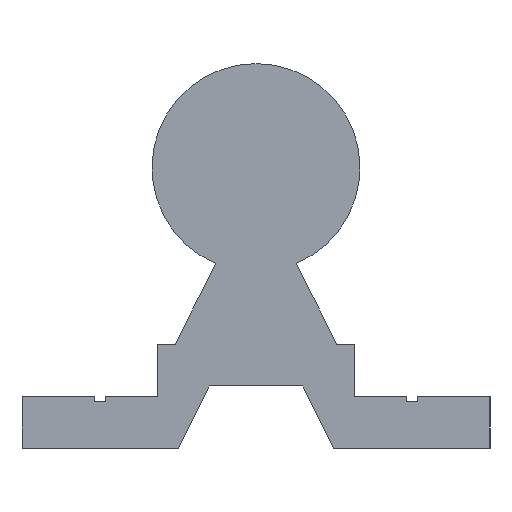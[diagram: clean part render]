
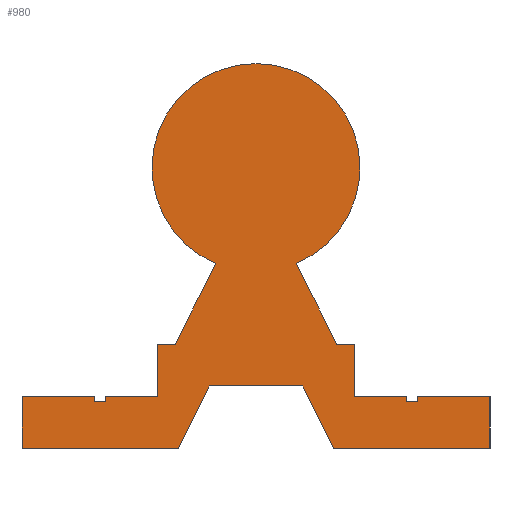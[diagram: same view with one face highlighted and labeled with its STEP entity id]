
A CAD part, left-side view. The second image highlights one B-rep face of the part: STEP entity #980.
In plain terms, the highlighted planar face has unit normal (-1, 0, 0).
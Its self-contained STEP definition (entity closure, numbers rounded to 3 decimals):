
#26=LINE('',#1379,#116);
#36=LINE('',#1420,#126);
#40=LINE('',#1445,#130);
#50=LINE('',#1486,#140);
#53=LINE('',#1499,#143);
#55=LINE('',#1518,#145);
#58=LINE('',#1529,#148);
#60=LINE('',#1548,#150);
#74=LINE('',#1595,#164);
#78=LINE('',#1603,#168);
#81=LINE('',#1609,#171);
#84=LINE('',#1615,#174);
#87=LINE('',#1620,#177);
#89=LINE('',#1623,#179);
#90=LINE('',#1626,#180);
#93=LINE('',#1632,#183);
#96=LINE('',#1638,#186);
#99=LINE('',#1645,#189);
#103=LINE('',#1653,#193);
#106=LINE('',#1658,#196);
#108=LINE('',#1661,#198);
#109=LINE('',#1664,#199);
#112=LINE('',#1669,#202);
#116=VECTOR('',#1103,10.);
#126=VECTOR('',#1125,10.);
#130=VECTOR('',#1141,10.);
#140=VECTOR('',#1163,10.);
#143=VECTOR('',#1174,10.);
#145=VECTOR('',#1194,10.);
#148=VECTOR('',#1203,10.);
#150=VECTOR('',#1223,10.);
#164=VECTOR('',#1279,10.);
#168=VECTOR('',#1285,10.);
#171=VECTOR('',#1290,10.);
#174=VECTOR('',#1295,10.);
#177=VECTOR('',#1300,10.);
#179=VECTOR('',#1304,10.);
#180=VECTOR('',#1307,10.);
#183=VECTOR('',#1312,10.);
#186=VECTOR('',#1317,10.);
#189=VECTOR('',#1322,10.);
#193=VECTOR('',#1328,10.);
#196=VECTOR('',#1333,10.);
#198=VECTOR('',#1337,10.);
#199=VECTOR('',#1340,10.);
#202=VECTOR('',#1345,10.);
#240=PLANE('',#1088);
#290=FACE_OUTER_BOUND('',#344,.T.);
#344=EDGE_LOOP('',(#899,#900,#901,#902,#903,#904,#905,#906,#907,#908,#909,
#910,#911,#912,#913,#914,#915,#916,#917,#918,#919,#920,#921,#922));
#381=CIRCLE('',#1085,10.);
#405=VERTEX_POINT('',#1376);
#406=VERTEX_POINT('',#1378);
#418=VERTEX_POINT('',#1417);
#419=VERTEX_POINT('',#1419);
#427=VERTEX_POINT('',#1442);
#428=VERTEX_POINT('',#1444);
#440=VERTEX_POINT('',#1483);
#441=VERTEX_POINT('',#1485);
#444=VERTEX_POINT('',#1497);
#449=VERTEX_POINT('',#1517);
#451=VERTEX_POINT('',#1527);
#456=VERTEX_POINT('',#1547);
#467=VERTEX_POINT('',#1593);
#468=VERTEX_POINT('',#1594);
#471=VERTEX_POINT('',#1602);
#473=VERTEX_POINT('',#1608);
#475=VERTEX_POINT('',#1614);
#477=VERTEX_POINT('',#1625);
#479=VERTEX_POINT('',#1631);
#481=VERTEX_POINT('',#1637);
#483=VERTEX_POINT('',#1643);
#484=VERTEX_POINT('',#1644);
#487=VERTEX_POINT('',#1652);
#489=VERTEX_POINT('',#1663);
#498=EDGE_CURVE('',#405,#406,#26,.T.);
#514=EDGE_CURVE('',#418,#419,#36,.T.);
#524=EDGE_CURVE('',#427,#428,#40,.T.);
#540=EDGE_CURVE('',#440,#441,#50,.T.);
#546=EDGE_CURVE('',#444,#405,#53,.T.);
#555=EDGE_CURVE('',#419,#449,#55,.T.);
#560=EDGE_CURVE('',#451,#427,#58,.T.);
#569=EDGE_CURVE('',#441,#456,#60,.T.);
#593=EDGE_CURVE('',#467,#468,#74,.T.);
#597=EDGE_CURVE('',#471,#467,#78,.T.);
#600=EDGE_CURVE('',#473,#471,#81,.T.);
#603=EDGE_CURVE('',#475,#473,#84,.T.);
#606=EDGE_CURVE('',#428,#475,#87,.T.);
#608=EDGE_CURVE('',#456,#451,#89,.T.);
#609=EDGE_CURVE('',#477,#440,#90,.T.);
#612=EDGE_CURVE('',#479,#477,#93,.T.);
#615=EDGE_CURVE('',#481,#479,#96,.T.);
#618=EDGE_CURVE('',#483,#484,#99,.T.);
#622=EDGE_CURVE('',#487,#483,#103,.T.);
#625=EDGE_CURVE('',#406,#487,#106,.T.);
#627=EDGE_CURVE('',#449,#444,#108,.T.);
#628=EDGE_CURVE('',#489,#418,#109,.T.);
#631=EDGE_CURVE('',#468,#489,#112,.T.);
#633=EDGE_CURVE('',#484,#481,#381,.T.);
#899=ORIENTED_EDGE('',*,*,#633,.F.);
#900=ORIENTED_EDGE('',*,*,#618,.F.);
#901=ORIENTED_EDGE('',*,*,#622,.F.);
#902=ORIENTED_EDGE('',*,*,#625,.F.);
#903=ORIENTED_EDGE('',*,*,#498,.F.);
#904=ORIENTED_EDGE('',*,*,#546,.F.);
#905=ORIENTED_EDGE('',*,*,#627,.F.);
#906=ORIENTED_EDGE('',*,*,#555,.F.);
#907=ORIENTED_EDGE('',*,*,#514,.F.);
#908=ORIENTED_EDGE('',*,*,#628,.F.);
#909=ORIENTED_EDGE('',*,*,#631,.F.);
#910=ORIENTED_EDGE('',*,*,#593,.F.);
#911=ORIENTED_EDGE('',*,*,#597,.F.);
#912=ORIENTED_EDGE('',*,*,#600,.F.);
#913=ORIENTED_EDGE('',*,*,#603,.F.);
#914=ORIENTED_EDGE('',*,*,#606,.F.);
#915=ORIENTED_EDGE('',*,*,#524,.F.);
#916=ORIENTED_EDGE('',*,*,#560,.F.);
#917=ORIENTED_EDGE('',*,*,#608,.F.);
#918=ORIENTED_EDGE('',*,*,#569,.F.);
#919=ORIENTED_EDGE('',*,*,#540,.F.);
#920=ORIENTED_EDGE('',*,*,#609,.F.);
#921=ORIENTED_EDGE('',*,*,#612,.F.);
#922=ORIENTED_EDGE('',*,*,#615,.F.);
#980=ADVANCED_FACE('',(#290),#240,.F.);
#1085=AXIS2_PLACEMENT_3D('',#1672,#1349,#1350);
#1088=AXIS2_PLACEMENT_3D('',#1675,#1355,#1356);
#1103=DIRECTION('',(0.,-1.,0.));
#1125=DIRECTION('',(0.,-1.,0.));
#1141=DIRECTION('',(0.,-1.,0.));
#1163=DIRECTION('',(0.,-1.,0.));
#1174=DIRECTION('',(0.,0.,1.));
#1194=DIRECTION('',(0.,0.,-1.));
#1203=DIRECTION('',(0.,0.,1.));
#1223=DIRECTION('',(0.,0.,-1.));
#1279=DIRECTION('',(0.,0.447,-0.894));
#1285=DIRECTION('',(0.,1.,0.));
#1290=DIRECTION('',(0.,0.447,0.894));
#1295=DIRECTION('',(0.,1.,0.));
#1300=DIRECTION('',(0.,0.,-1.));
#1304=DIRECTION('',(0.,-1.,0.));
#1307=DIRECTION('',(0.,0.,-1.));
#1312=DIRECTION('',(0.,-1.,0.));
#1317=DIRECTION('',(0.,-0.447,-0.894));
#1322=DIRECTION('',(0.,-0.447,0.894));
#1328=DIRECTION('',(0.,-1.,0.));
#1333=DIRECTION('',(0.,0.,1.));
#1337=DIRECTION('',(0.,-1.,0.));
#1340=DIRECTION('',(0.,0.,1.));
#1345=DIRECTION('',(0.,1.,0.));
#1349=DIRECTION('center_axis',(1.,0.,0.));
#1350=DIRECTION('ref_axis',(0.,1.,0.));
#1355=DIRECTION('center_axis',(1.,0.,0.));
#1356=DIRECTION('ref_axis',(0.,0.,-1.));
#1376=CARTESIAN_POINT('',(0.,14.5,5.));
#1378=CARTESIAN_POINT('',(0.,9.5,5.));
#1379=CARTESIAN_POINT('',(0.,14.5,5.));
#1417=CARTESIAN_POINT('',(0.,22.5,5.));
#1419=CARTESIAN_POINT('',(0.,15.5,5.));
#1420=CARTESIAN_POINT('',(0.,22.5,5.));
#1442=CARTESIAN_POINT('',(0.,-15.5,5.));
#1444=CARTESIAN_POINT('',(0.,-22.5,5.));
#1445=CARTESIAN_POINT('',(0.,-15.5,5.));
#1483=CARTESIAN_POINT('',(0.,-9.5,5.));
#1485=CARTESIAN_POINT('',(0.,-14.5,5.));
#1486=CARTESIAN_POINT('',(0.,-9.5,5.));
#1497=CARTESIAN_POINT('',(0.,14.5,4.5));
#1499=CARTESIAN_POINT('',(0.,14.5,4.5));
#1517=CARTESIAN_POINT('',(0.,15.5,4.5));
#1518=CARTESIAN_POINT('',(0.,15.5,5.));
#1527=CARTESIAN_POINT('',(0.,-15.5,4.5));
#1529=CARTESIAN_POINT('',(0.,-15.5,4.5));
#1547=CARTESIAN_POINT('',(0.,-14.5,4.5));
#1548=CARTESIAN_POINT('',(0.,-14.5,5.));
#1593=CARTESIAN_POINT('',(0.,4.5,6.));
#1594=CARTESIAN_POINT('',(0.,7.5,0.));
#1595=CARTESIAN_POINT('',(0.,4.5,6.));
#1602=CARTESIAN_POINT('',(0.,-4.5,6.));
#1603=CARTESIAN_POINT('',(0.,-4.5,6.));
#1608=CARTESIAN_POINT('',(0.,-7.5,0.));
#1609=CARTESIAN_POINT('',(0.,-7.5,0.));
#1614=CARTESIAN_POINT('',(0.,-22.5,0.));
#1615=CARTESIAN_POINT('',(0.,-22.5,0.));
#1620=CARTESIAN_POINT('',(0.,-22.5,5.));
#1623=CARTESIAN_POINT('',(0.,-14.5,4.5));
#1625=CARTESIAN_POINT('',(0.,-9.5,10.));
#1626=CARTESIAN_POINT('',(0.,-9.5,10.));
#1631=CARTESIAN_POINT('',(0.,-7.766,10.));
#1632=CARTESIAN_POINT('',(0.,-7.766,10.));
#1637=CARTESIAN_POINT('',(0.,-3.875,17.781));
#1638=CARTESIAN_POINT('',(0.,-3.875,17.781));
#1643=CARTESIAN_POINT('',(0.,7.766,10.));
#1644=CARTESIAN_POINT('',(0.,3.875,17.781));
#1645=CARTESIAN_POINT('',(0.,7.766,10.));
#1652=CARTESIAN_POINT('',(0.,9.5,10.));
#1653=CARTESIAN_POINT('',(0.,9.5,10.));
#1658=CARTESIAN_POINT('',(0.,9.5,5.));
#1661=CARTESIAN_POINT('',(0.,15.5,4.5));
#1663=CARTESIAN_POINT('',(0.,22.5,0.));
#1664=CARTESIAN_POINT('',(0.,22.5,0.));
#1669=CARTESIAN_POINT('',(0.,7.5,0.));
#1672=CARTESIAN_POINT('Origin',(0.,0.,27.));
#1675=CARTESIAN_POINT('Origin',(0.,0.,27.));
